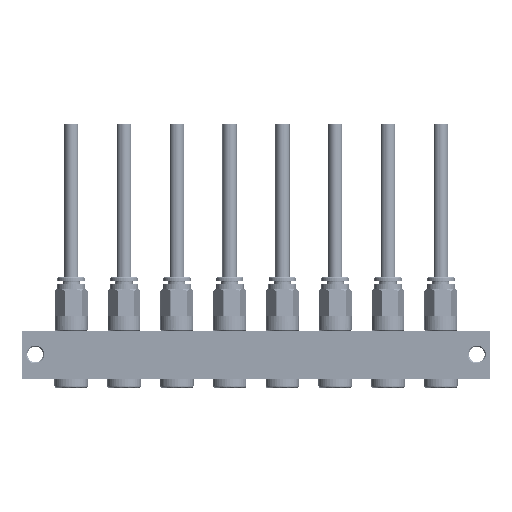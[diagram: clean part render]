
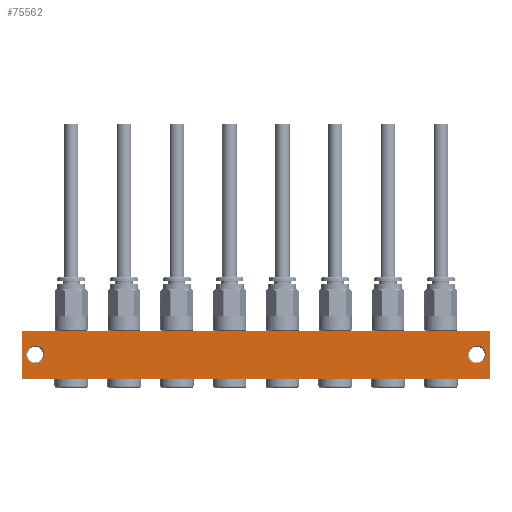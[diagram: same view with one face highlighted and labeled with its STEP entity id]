
A CAD part, front view. The second image highlights one B-rep face of the part: STEP entity #75562.
In plain terms, the highlighted planar face has unit normal (0, -1, 0).
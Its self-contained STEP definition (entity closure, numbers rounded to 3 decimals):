
#609 = DIRECTION ( 'NONE',  ( 0., 0., -1. ) ) ;
#1438 = LINE ( 'NONE', #40513, #64303 ) ;
#1799 = EDGE_CURVE ( 'NONE', #64943, #92162, #35451, .T. ) ;
#4804 = VERTEX_POINT ( 'NONE', #27451 ) ;
#5396 = ORIENTED_EDGE ( 'NONE', *, *, #78266, .T. ) ;
#5456 = ORIENTED_EDGE ( 'NONE', *, *, #54139, .F. ) ;
#6521 = AXIS2_PLACEMENT_3D ( 'NONE', #39043, #10230, #65259 ) ;
#8934 = VECTOR ( 'NONE', #35964, 1000. ) ;
#9948 = DIRECTION ( 'NONE',  ( 0., 1., 0. ) ) ;
#10230 = DIRECTION ( 'NONE',  ( 0., 1., 0. ) ) ;
#12666 = VERTEX_POINT ( 'NONE', #79101 ) ;
#16270 = ORIENTED_EDGE ( 'NONE', *, *, #44160, .F. ) ;
#18742 = CARTESIAN_POINT ( 'NONE',  ( 97.5, 0., -10. ) ) ;
#25379 = DIRECTION ( 'NONE',  ( 0., 0., 1. ) ) ;
#27451 = CARTESIAN_POINT ( 'NONE',  ( 92., 0., 3.75 ) ) ;
#27741 = ORIENTED_EDGE ( 'NONE', *, *, #1799, .T. ) ;
#31488 = CARTESIAN_POINT ( 'NONE',  ( -92., 0., 3.75 ) ) ;
#33542 = VERTEX_POINT ( 'NONE', #18742 ) ;
#34557 = ORIENTED_EDGE ( 'NONE', *, *, #61484, .T. ) ;
#35451 = LINE ( 'NONE', #58076, #8934 ) ;
#35964 = DIRECTION ( 'NONE',  ( 0., 0., -1. ) ) ;
#36482 = EDGE_LOOP ( 'NONE', ( #34557, #16270, #5456, #27741 ) ) ;
#39043 = CARTESIAN_POINT ( 'NONE',  ( 92., 0., 0. ) ) ;
#39486 = CARTESIAN_POINT ( 'NONE',  ( -97.5, 0., 10. ) ) ;
#40513 = CARTESIAN_POINT ( 'NONE',  ( 97.5, 0., 10. ) ) ;
#43255 = EDGE_CURVE ( 'NONE', #4804, #4804, #82185, .T. ) ;
#44160 = EDGE_CURVE ( 'NONE', #12666, #33542, #70591, .T. ) ;
#44770 = AXIS2_PLACEMENT_3D ( 'NONE', #101088, #85077, #70607 ) ;
#46180 = VECTOR ( 'NONE', #72102, 1000. ) ;
#49216 = VECTOR ( 'NONE', #609, 1000. ) ;
#54139 = EDGE_CURVE ( 'NONE', #64943, #12666, #1438, .T. ) ;
#54417 = EDGE_LOOP ( 'NONE', ( #56525 ) ) ;
#54562 = LINE ( 'NONE', #78801, #46180 ) ;
#55096 = CARTESIAN_POINT ( 'NONE',  ( 97.5, 0., 10. ) ) ;
#55623 = VERTEX_POINT ( 'NONE', #31488 ) ;
#56203 = FACE_OUTER_BOUND ( 'NONE', #36482, .T. ) ;
#56525 = ORIENTED_EDGE ( 'NONE', *, *, #43255, .T. ) ;
#58076 = CARTESIAN_POINT ( 'NONE',  ( -97.5, 0., 10. ) ) ;
#61484 = EDGE_CURVE ( 'NONE', #92162, #33542, #54562, .T. ) ;
#64196 = DIRECTION ( 'NONE',  ( 1., 0., 0. ) ) ;
#64303 = VECTOR ( 'NONE', #64196, 1000. ) ;
#64943 = VERTEX_POINT ( 'NONE', #39486 ) ;
#65259 = DIRECTION ( 'NONE',  ( 0., 0., 1. ) ) ;
#70591 = LINE ( 'NONE', #55096, #49216 ) ;
#70607 = DIRECTION ( 'NONE',  ( 0., 0., 1. ) ) ;
#72102 = DIRECTION ( 'NONE',  ( 1., 0., 0. ) ) ;
#75562 = ADVANCED_FACE ( 'NONE', ( #81970, #95943, #56203 ), #87699, .F. ) ;
#78266 = EDGE_CURVE ( 'NONE', #55623, #55623, #100763, .T. ) ;
#78329 = EDGE_LOOP ( 'NONE', ( #5396 ) ) ;
#78801 = CARTESIAN_POINT ( 'NONE',  ( 97.5, 0., -10. ) ) ;
#79101 = CARTESIAN_POINT ( 'NONE',  ( 97.5, 0., 10. ) ) ;
#80457 = CARTESIAN_POINT ( 'NONE',  ( 97.5, 0., 10. ) ) ;
#81970 = FACE_BOUND ( 'NONE', #54417, .T. ) ;
#82185 = CIRCLE ( 'NONE', #6521, 3.75 ) ;
#85077 = DIRECTION ( 'NONE',  ( 0., 1., 0. ) ) ;
#87699 = PLANE ( 'NONE',  #95752 ) ;
#92162 = VERTEX_POINT ( 'NONE', #98065 ) ;
#95752 = AXIS2_PLACEMENT_3D ( 'NONE', #80457, #9948, #25379 ) ;
#95943 = FACE_BOUND ( 'NONE', #78329, .T. ) ;
#98065 = CARTESIAN_POINT ( 'NONE',  ( -97.5, 0., -10. ) ) ;
#100763 = CIRCLE ( 'NONE', #44770, 3.75 ) ;
#101088 = CARTESIAN_POINT ( 'NONE',  ( -92., 0., 0. ) ) ;
